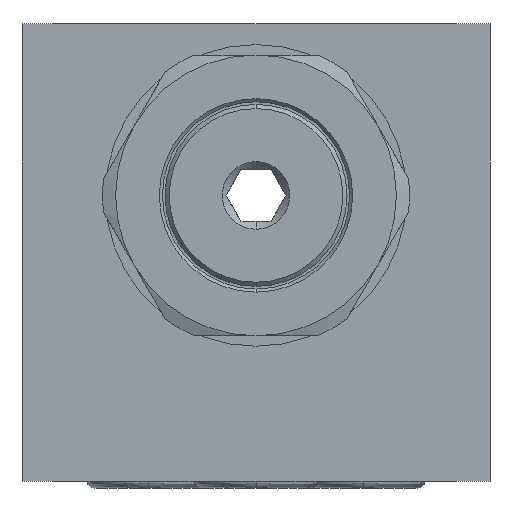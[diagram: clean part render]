
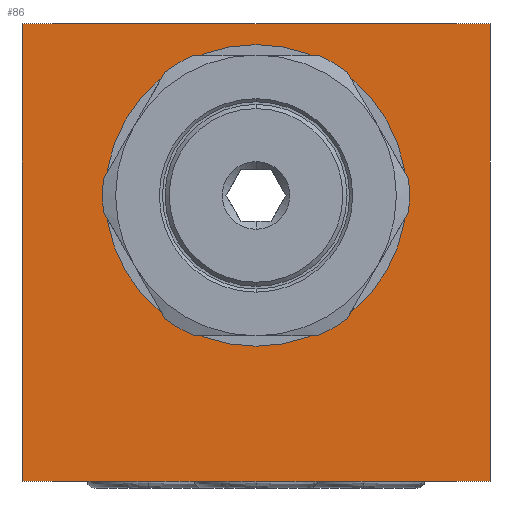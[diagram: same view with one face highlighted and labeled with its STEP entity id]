
A CAD part, front view. The second image highlights one B-rep face of the part: STEP entity #86.
In plain terms, the highlighted planar face has unit normal (0, -1, 0).
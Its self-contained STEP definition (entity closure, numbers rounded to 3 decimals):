
#48 = VECTOR ( 'NONE', #2403, 1000. ) ;
#86 = ADVANCED_FACE ( 'NONE', ( #5660, #2075 ), #1427, .F. ) ;
#209 = VERTEX_POINT ( 'NONE', #2357 ) ;
#370 = VECTOR ( 'NONE', #993, 1000. ) ;
#421 = VERTEX_POINT ( 'NONE', #2787 ) ;
#485 = VERTEX_POINT ( 'NONE', #4549 ) ;
#688 = EDGE_LOOP ( 'NONE', ( #3901, #3816, #1853, #2756 ) ) ;
#993 = DIRECTION ( 'NONE',  ( 0., 0., -1. ) ) ;
#1236 = CIRCLE ( 'NONE', #5124, 14.5 ) ;
#1427 = PLANE ( 'NONE',  #2545 ) ;
#1429 = CARTESIAN_POINT ( 'NONE',  ( 0., 0., 44. ) ) ;
#1853 = ORIENTED_EDGE ( 'NONE', *, *, #3914, .F. ) ;
#2075 = FACE_BOUND ( 'NONE', #4067, .T. ) ;
#2357 = CARTESIAN_POINT ( 'NONE',  ( 0., 0., 44. ) ) ;
#2363 = CARTESIAN_POINT ( 'NONE',  ( 0., 0., 44. ) ) ;
#2403 = DIRECTION ( 'NONE',  ( 1., 0., 0. ) ) ;
#2425 = VERTEX_POINT ( 'NONE', #4185 ) ;
#2427 = CARTESIAN_POINT ( 'NONE',  ( 45., 0., 44. ) ) ;
#2469 = EDGE_CURVE ( 'NONE', #209, #4317, #4270, .T. ) ;
#2501 = CARTESIAN_POINT ( 'NONE',  ( 8., 0., 27.5 ) ) ;
#2545 = AXIS2_PLACEMENT_3D ( 'NONE', #1429, #3557, #4094 ) ;
#2651 = AXIS2_PLACEMENT_3D ( 'NONE', #2863, #2855, #2845 ) ;
#2756 = ORIENTED_EDGE ( 'NONE', *, *, #2469, .T. ) ;
#2787 = CARTESIAN_POINT ( 'NONE',  ( 45., 0., 0. ) ) ;
#2845 = DIRECTION ( 'NONE',  ( 0., 0., 1. ) ) ;
#2855 = DIRECTION ( 'NONE',  ( 0., -1., 0. ) ) ;
#2863 = CARTESIAN_POINT ( 'NONE',  ( 22.5, 0., 27.5 ) ) ;
#2954 = ORIENTED_EDGE ( 'NONE', *, *, #6879, .F. ) ;
#3137 = EDGE_CURVE ( 'NONE', #4317, #421, #4632, .T. ) ;
#3557 = DIRECTION ( 'NONE',  ( 0., 1., 0. ) ) ;
#3657 = CARTESIAN_POINT ( 'NONE',  ( 0., 0., 44. ) ) ;
#3816 = ORIENTED_EDGE ( 'NONE', *, *, #4314, .F. ) ;
#3867 = VECTOR ( 'NONE', #6155, 1000. ) ;
#3901 = ORIENTED_EDGE ( 'NONE', *, *, #3137, .T. ) ;
#3914 = EDGE_CURVE ( 'NONE', #209, #485, #4166, .T. ) ;
#4067 = EDGE_LOOP ( 'NONE', ( #4521, #2954 ) ) ;
#4094 = DIRECTION ( 'NONE',  ( 0., 0., 1. ) ) ;
#4110 = DIRECTION ( 'NONE',  ( 0., 0., 1. ) ) ;
#4140 = DIRECTION ( 'NONE',  ( 0., -1., 0. ) ) ;
#4159 = CARTESIAN_POINT ( 'NONE',  ( 22.5, 0., 27.5 ) ) ;
#4166 = LINE ( 'NONE', #2363, #48 ) ;
#4185 = CARTESIAN_POINT ( 'NONE',  ( 37., 0., 27.5 ) ) ;
#4270 = LINE ( 'NONE', #3657, #370 ) ;
#4314 = EDGE_CURVE ( 'NONE', #485, #421, #5089, .T. ) ;
#4317 = VERTEX_POINT ( 'NONE', #6496 ) ;
#4521 = ORIENTED_EDGE ( 'NONE', *, *, #7044, .F. ) ;
#4538 = CIRCLE ( 'NONE', #2651, 14.5 ) ;
#4549 = CARTESIAN_POINT ( 'NONE',  ( 45., 0., 44. ) ) ;
#4632 = LINE ( 'NONE', #6193, #3867 ) ;
#5089 = LINE ( 'NONE', #2427, #5975 ) ;
#5124 = AXIS2_PLACEMENT_3D ( 'NONE', #4159, #4140, #4110 ) ;
#5660 = FACE_OUTER_BOUND ( 'NONE', #688, .T. ) ;
#5975 = VECTOR ( 'NONE', #6961, 1000. ) ;
#6155 = DIRECTION ( 'NONE',  ( 1., 0., 0. ) ) ;
#6193 = CARTESIAN_POINT ( 'NONE',  ( 0., 0., 0. ) ) ;
#6496 = CARTESIAN_POINT ( 'NONE',  ( 0., 0., 0. ) ) ;
#6879 = EDGE_CURVE ( 'NONE', #7097, #2425, #1236, .T. ) ;
#6961 = DIRECTION ( 'NONE',  ( 0., 0., -1. ) ) ;
#7044 = EDGE_CURVE ( 'NONE', #2425, #7097, #4538, .T. ) ;
#7097 = VERTEX_POINT ( 'NONE', #2501 ) ;
